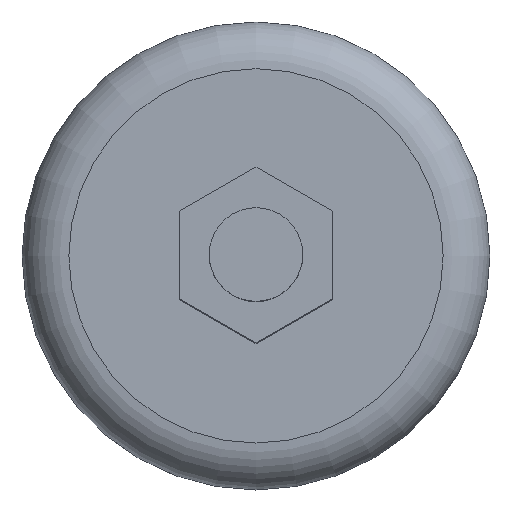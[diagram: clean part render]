
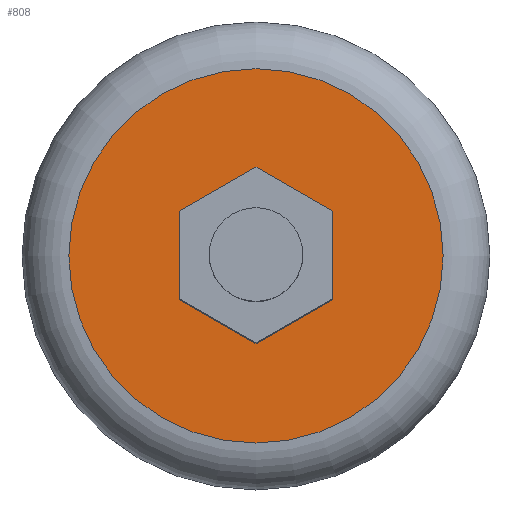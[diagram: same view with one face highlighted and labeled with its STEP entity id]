
A CAD part, top view. The second image highlights one B-rep face of the part: STEP entity #808.
In plain terms, the highlighted planar face has unit normal (0, 0, 1).
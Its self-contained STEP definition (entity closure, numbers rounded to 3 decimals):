
#507=CARTESIAN_POINT('',(-6.5,-3.753,-48.));
#508=VERTEX_POINT('',#507);
#515=CARTESIAN_POINT('',(0.,-7.506,-48.));
#516=VERTEX_POINT('',#515);
#517=CARTESIAN_POINT('',(0.,-7.506,-48.));
#518=DIRECTION('',(-0.866,0.5,0.0));
#519=VECTOR('',#518,7.506);
#520=LINE('',#517,#519);
#521=EDGE_CURVE('',#516,#508,#520,.T.);
#545=CARTESIAN_POINT('',(-6.5,3.753,-48.));
#546=VERTEX_POINT('',#545);
#553=CARTESIAN_POINT('',(-6.5,-3.753,-48.));
#554=DIRECTION('',(0.0,1.0,0.0));
#555=VECTOR('',#554,7.506);
#556=LINE('',#553,#555);
#557=EDGE_CURVE('',#508,#546,#556,.T.);
#576=CARTESIAN_POINT('',(0.,7.506,-48.));
#577=VERTEX_POINT('',#576);
#584=CARTESIAN_POINT('',(-6.5,3.753,-48.));
#585=DIRECTION('',(0.866,0.5,0.0));
#586=VECTOR('',#585,7.506);
#587=LINE('',#584,#586);
#588=EDGE_CURVE('',#546,#577,#587,.T.);
#607=CARTESIAN_POINT('',(6.5,3.753,-48.));
#608=VERTEX_POINT('',#607);
#615=CARTESIAN_POINT('',(0.,7.506,-48.));
#616=DIRECTION('',(0.866,-0.5,0.0));
#617=VECTOR('',#616,7.506);
#618=LINE('',#615,#617);
#619=EDGE_CURVE('',#577,#608,#618,.T.);
#638=CARTESIAN_POINT('',(6.5,-3.753,-48.));
#639=VERTEX_POINT('',#638);
#646=CARTESIAN_POINT('',(6.5,3.753,-48.));
#647=DIRECTION('',(0.0,-1.0,0.0));
#648=VECTOR('',#647,7.506);
#649=LINE('',#646,#648);
#650=EDGE_CURVE('',#608,#639,#649,.T.);
#668=CARTESIAN_POINT('',(6.5,-3.753,-48.));
#669=DIRECTION('',(-0.866,-0.5,0.0));
#670=VECTOR('',#669,7.506);
#671=LINE('',#668,#670);
#672=EDGE_CURVE('',#639,#516,#671,.T.);
#777=CARTESIAN_POINT('',(16.,0.0,-48.));
#778=VERTEX_POINT('',#777);
#779=CARTESIAN_POINT('',(0.0,0.0,-48.));
#780=DIRECTION('',(0.0,0.0,1.0));
#781=DIRECTION('',(1.0,0.0,0.0));
#782=AXIS2_PLACEMENT_3D('',#779,#780,#781);
#783=CIRCLE('',#782,16.);
#784=EDGE_CURVE('',#778,#778,#783,.T.);
#792=CARTESIAN_POINT('',(8.,0.0,-48.));
#793=DIRECTION('',(0.0,0.0,1.0));
#794=DIRECTION('',(1.0,0.0,0.0));
#795=AXIS2_PLACEMENT_3D('',#792,#793,#794);
#796=PLANE('',#795);
#797=ORIENTED_EDGE('',*,*,#784,.T.);
#798=EDGE_LOOP('',(#797));
#799=FACE_OUTER_BOUND('',#798,.T.);
#800=ORIENTED_EDGE('',*,*,#521,.T.);
#801=ORIENTED_EDGE('',*,*,#557,.T.);
#802=ORIENTED_EDGE('',*,*,#588,.T.);
#803=ORIENTED_EDGE('',*,*,#619,.T.);
#804=ORIENTED_EDGE('',*,*,#650,.T.);
#805=ORIENTED_EDGE('',*,*,#672,.T.);
#806=EDGE_LOOP('',(#800,#801,#802,#803,#804,#805));
#807=FACE_BOUND('',#806,.T.);
#808=ADVANCED_FACE('',(#799,#807),#796,.T.);
